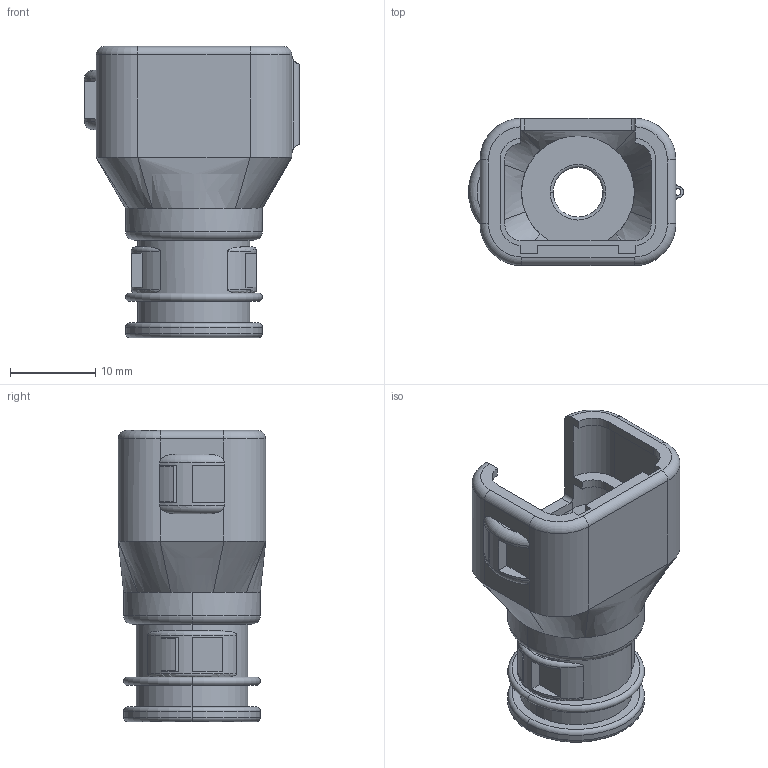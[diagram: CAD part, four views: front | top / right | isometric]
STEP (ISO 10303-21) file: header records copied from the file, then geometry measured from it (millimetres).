
FILE_DESCRIPTION((''),'2;1');
FILE_NAME('C-2035047-1','2012-04-12T',('workeradm'),('Tyco Electronics Ltd.'),'PRO/ENGINEER BY PARAMETRIC TECHNOLOGY CORPORATION, 2010430','PRO/ENGINEER BY PARAMETRIC TECHNOLOGY CORPORATION, 2010430','');
FILE_SCHEMA(('AUTOMOTIVE_DESIGN { 1 0 10303 214 1 1 1 1 }'));
Length unit declared in the file: millimetre
Products named in the file (1): C-2035047-1
Bounding box: 25.26 x 17.3 x 34.2 mm (x, y, z)
Volume: 2821.6 mm3; surface area: 4362.4 mm2
Topology: 1 solids, 1 shells, 168 faces, 431 edges, 274 vertices
Faces by surface type: plane 79, cylinder 51, torus 22, bspline 16
Entity records: 6501 total; most frequent: CARTESIAN_POINT 2132, DIRECTION 865, ORIENTED_EDGE 862, EDGE_CURVE 431, AXIS2_PLACEMENT_3D 316, VERTEX_POINT 274, VECTOR 233, LINE 233
